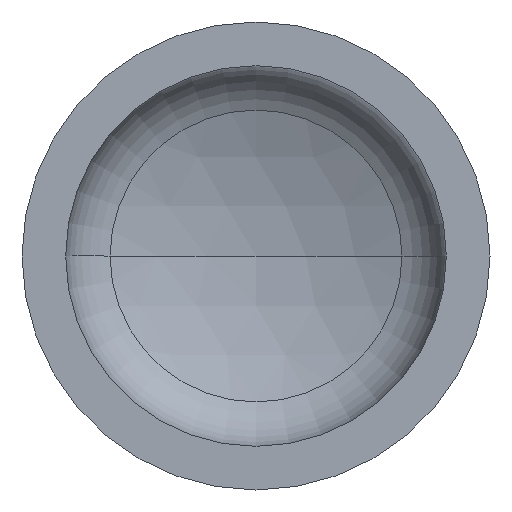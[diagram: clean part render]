
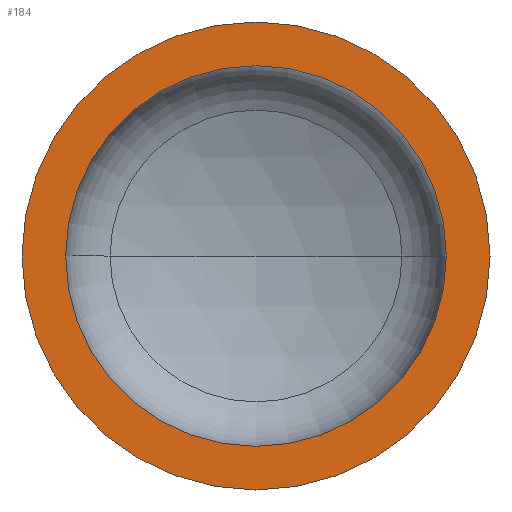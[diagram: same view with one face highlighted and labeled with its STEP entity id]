
A CAD part, front view. The second image highlights one B-rep face of the part: STEP entity #184.
In plain terms, the highlighted planar face has unit normal (0, -1, 0).
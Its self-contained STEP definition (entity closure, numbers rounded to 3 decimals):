
#3 = ORIENTED_EDGE ( 'NONE', *, *, #134, .F. ) ;
#5 = EDGE_LOOP ( 'NONE', ( #28, #133 ) ) ;
#28 = ORIENTED_EDGE ( 'NONE', *, *, #123, .T. ) ;
#33 = VERTEX_POINT ( 'NONE', #350 ) ;
#42 = EDGE_LOOP ( 'NONE', ( #3, #109 ) ) ;
#46 = VERTEX_POINT ( 'NONE', #252 ) ;
#62 = CIRCLE ( 'NONE', #111, 450. ) ;
#72 = VERTEX_POINT ( 'NONE', #227 ) ;
#79 = AXIS2_PLACEMENT_3D ( 'NONE', #297, #209, #192 ) ;
#86 = AXIS2_PLACEMENT_3D ( 'NONE', #238, #176, #175 ) ;
#92 = AXIS2_PLACEMENT_3D ( 'NONE', #295, #293, #222 ) ;
#95 = AXIS2_PLACEMENT_3D ( 'NONE', #292, #180, #195 ) ;
#109 = ORIENTED_EDGE ( 'NONE', *, *, #294, .F. ) ;
#111 = AXIS2_PLACEMENT_3D ( 'NONE', #182, #204, #205 ) ;
#112 = VERTEX_POINT ( 'NONE', #234 ) ;
#123 = EDGE_CURVE ( 'NONE', #72, #33, #62, .T. ) ;
#132 = EDGE_CURVE ( 'NONE', #33, #72, #291, .T. ) ;
#133 = ORIENTED_EDGE ( 'NONE', *, *, #132, .T. ) ;
#134 = EDGE_CURVE ( 'NONE', #46, #112, #172, .T. ) ;
#154 = FACE_OUTER_BOUND ( 'NONE', #5, .T. ) ;
#172 = CIRCLE ( 'NONE', #92, 366. ) ;
#175 = DIRECTION ( 'NONE',  ( 1., 0., 0. ) ) ;
#176 = DIRECTION ( 'NONE',  ( 0., -1., 0. ) ) ;
#180 = DIRECTION ( 'NONE',  ( 0., -1., 0. ) ) ;
#182 = CARTESIAN_POINT ( 'NONE',  ( 0., 0., 0. ) ) ;
#184 = ADVANCED_FACE ( 'NONE', ( #233, #154 ), #210, .F. ) ;
#192 = DIRECTION ( 'NONE',  ( -1., 0., 0. ) ) ;
#195 = DIRECTION ( 'NONE',  ( 1., 0., 0. ) ) ;
#204 = DIRECTION ( 'NONE',  ( 0., -1., 0. ) ) ;
#205 = DIRECTION ( 'NONE',  ( 1., 0., 0. ) ) ;
#209 = DIRECTION ( 'NONE',  ( 0., 1., 0. ) ) ;
#210 = PLANE ( 'NONE',  #79 ) ;
#222 = DIRECTION ( 'NONE',  ( 1., 0., 0. ) ) ;
#227 = CARTESIAN_POINT ( 'NONE',  ( 450., 0., 0. ) ) ;
#233 = FACE_BOUND ( 'NONE', #42, .T. ) ;
#234 = CARTESIAN_POINT ( 'NONE',  ( -366., 0., 0. ) ) ;
#238 = CARTESIAN_POINT ( 'NONE',  ( 0., 0., 0. ) ) ;
#252 = CARTESIAN_POINT ( 'NONE',  ( 366., 0., 0. ) ) ;
#291 = CIRCLE ( 'NONE', #95, 450. ) ;
#292 = CARTESIAN_POINT ( 'NONE',  ( 0., 0., 0. ) ) ;
#293 = DIRECTION ( 'NONE',  ( 0., -1., 0. ) ) ;
#294 = EDGE_CURVE ( 'NONE', #112, #46, #397, .T. ) ;
#295 = CARTESIAN_POINT ( 'NONE',  ( 0., 0., 0. ) ) ;
#297 = CARTESIAN_POINT ( 'NONE',  ( -450., 0., 0. ) ) ;
#350 = CARTESIAN_POINT ( 'NONE',  ( -450., 0., 0. ) ) ;
#397 = CIRCLE ( 'NONE', #86, 366. ) ;
